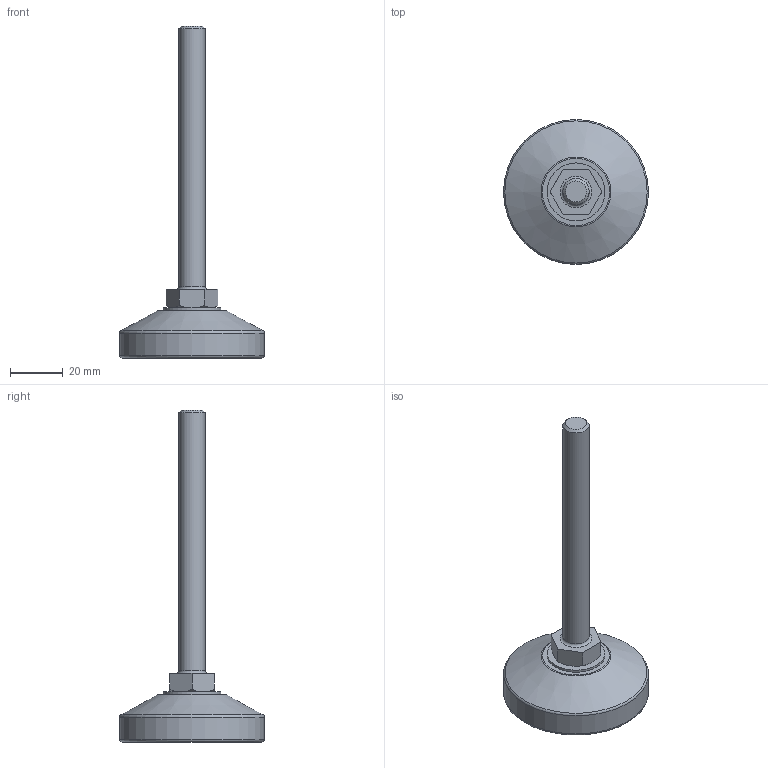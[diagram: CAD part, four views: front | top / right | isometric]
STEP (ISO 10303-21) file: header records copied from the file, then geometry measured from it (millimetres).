
FILE_DESCRIPTION(/* description */ (''),/* implementation_level */ '2;1');
FILE_NAME(/* name */ 'D:\조절자\F\F-M10-100L.stp',/* time_stamp */ '2016-03-14T14:34:55+09:00',/* author */ ('GS-DT-1-001'),/* organization */ (''),/* preprocessor_version */ 'ST-DEVELOPER v15.6',/* originating_system */ 'Autodesk Inventor LT ',/* authorisation */ '');
FILE_SCHEMA (('AUTOMOTIVE_DESIGN { 1 0 10303 214 3 1 1 }'));
Length unit declared in the file: millimetre
Products named in the file (1): F-M10-100L
Bounding box: 55 x 55 x 126 mm (x, y, z)
Volume: 33834.4 mm3; surface area: 12850 mm2
Topology: 3 solids, 3 shells, 43 faces, 81 edges, 49 vertices
Faces by surface type: plane 17, cone 12, cylinder 9, torus 5
Full cylindrical faces by diameter (mm): 5.153 x1, 6.1 x1, 6.2 x1, 10 x1, 22 x1, 35 x1, 46 x1, 50 x1, 55 x1
Entity records: 970 total; most frequent: CARTESIAN_POINT 174, DIRECTION 170, ORIENTED_EDGE 118, AXIS2_PLACEMENT_3D 79, EDGE_LOOP 72, EDGE_CURVE 59, VERTEX_POINT 47, FACE_OUTER_BOUND 43
